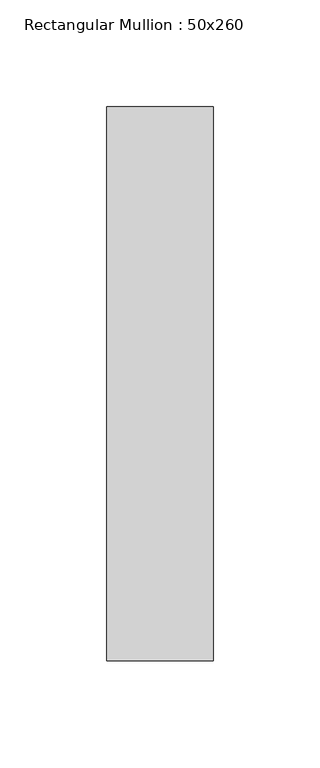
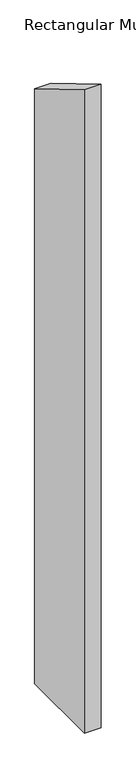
"""IFC4 building model written with IfcOpenShell, lengths in millimetres: member geometry, Rectangular Mullion : 50x260."""

from ifc_helpers import new_model, si_unit, frame, origin, place, context, project, spatial, polyline, outline, extrude, source, transform, mapped, element, save


def rectangular_mullion_50x260_323bfdcb(model_context):
    return source(origin(), model_context, "Body", "SweptSolid", [
        extrude(outline(polyline([(-130.0, 76.7112761), (130.0, -76.7112761), (130.0, -1972.8938486), (-130.0, -1972.8938486), (-130.0, 76.7112761)])), frame((-50.0, 0.0, 0.0), z_axis=(1.0, 0.0, 0.0), x_axis=(0.0, 1.0, 0.0)), (0.0, 0.0, 1.0), 50.0),
    ])


if __name__ == "__main__":
    model = new_model("IFC4")
    model_context = context("Model", 3, world=origin())
    ifc_project = project(units=[si_unit("LENGTHUNIT", "METRE", prefix="MILLI")], contexts=[model_context])
    site = spatial("IfcSite", under=ifc_project)
    building = spatial("IfcBuilding", under=site)
    placement = place(None, origin())
    rectangular_mullion_50x260_shape = rectangular_mullion_50x260_323bfdcb(model_context)
    element("IfcMember", 1, ObjectType="Rectangular Mullion : 50x260", at=placement, inside=building, context=model_context, shape_type="MappedRepresentation", body=[
        mapped(rectangular_mullion_50x260_shape, transform((0.0, 0.0, 0.0), x_axis=(1.0, 0.0, 0.0), y_axis=(0.0, 1.0, 0.0), z_axis=(0.0, 0.0, 1.0))),
    ])
    save(model, "model.ifc")
